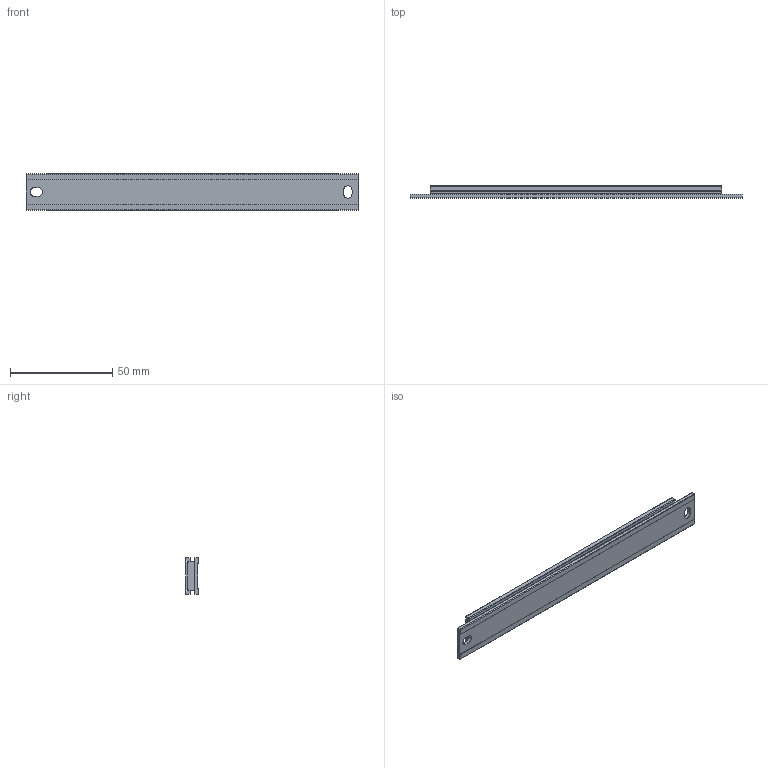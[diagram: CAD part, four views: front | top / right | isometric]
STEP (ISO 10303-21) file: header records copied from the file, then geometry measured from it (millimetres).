
FILE_DESCRIPTION (( 'STEP AP214' ), '1' );
FILE_NAME ('SAScale_exposed.ScaleLneght162.STEP', '2026-03-10T09:08:34', ( '' ), ( '' ), 'SwSTEP 2.0', 'SolidWorks 2024', '' );
FILE_SCHEMA (( 'AUTOMOTIVE_DESIGN' ));
Length unit declared in the file: millimetre
Products named in the file (1): SAScale_exposed.ScaleLneght162
Bounding box: 162 x 6 x 18 mm (x, y, z)
Volume: 14823 mm3; surface area: 13232.1 mm2
Topology: 2 solids, 2 shells, 52 faces, 141 edges, 94 vertices
Faces by surface type: plane 37, cylinder 15
Entity records: 2247 total; most frequent: CARTESIAN_POINT 288, ORIENTED_EDGE 282, DIRECTION 277, EDGE_CURVE 141, LINE 111, VECTOR 111, VERTEX_POINT 94, AXIS2_PLACEMENT_3D 83
